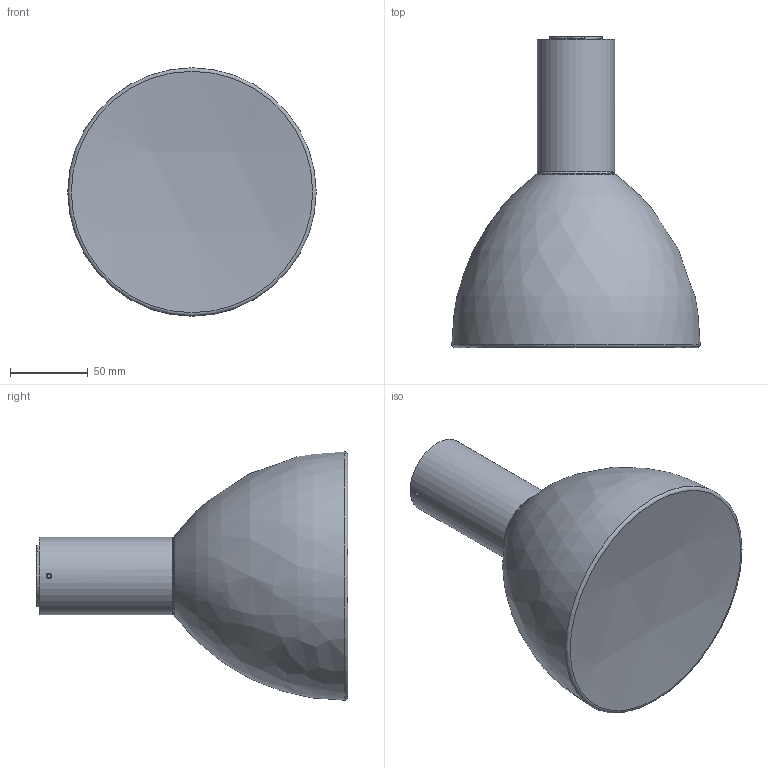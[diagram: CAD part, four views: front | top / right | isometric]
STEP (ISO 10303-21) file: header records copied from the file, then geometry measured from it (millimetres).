
FILE_DESCRIPTION(/* description */ (''),/* implementation_level */ '2;1');
FILE_NAME(/* name */ 'S:\UFFICIO TECNICO 2019\PRODOTTI ROTALIANA\SOUVLAKI\CONFIGURATORE\FILES X CONFIGURATORE\ipt INVENTOR\1SVH1001.stp',/* time_stamp */ '2024-03-13T17:51:39+01:00',/* author */ ('mtesta'),/* organization */ (''),/* preprocessor_version */ 'ST-DEVELOPER v18.1',/* originating_system */ 'Autodesk Inventor 2021',/* authorisation */ '');
FILE_SCHEMA (('AUTOMOTIVE_DESIGN { 1 0 10303 214 3 1 1 }'));
Length unit declared in the file: millimetre
Products named in the file (1): 1SVH1001
Bounding box: 160 x 200.65 x 160 mm (x, y, z)
Volume: 164336 mm3; surface area: 183249.7 mm2
Topology: 4 solids, 4 shells, 433 faces, 1021 edges, 629 vertices
Faces by surface type: torus 107, plane 96, cylinder 95, bspline 73, cone 58, sphere 4
Full cylindrical faces by diameter (mm): 1.567 x3, 2.459 x2, 3 x27, 3.2 x2, 3.242 x1, 3.25 x2, 4 x4, 6.5 x2, 39 x1, 42 x2, 46.5 x1, 48 x1, 48.2 x2, 50 x1
Entity records: 15395 total; most frequent: CARTESIAN_POINT 4981, DIRECTION 2147, ORIENTED_EDGE 2020, EDGE_CURVE 1010, AXIS2_PLACEMENT_3D 953, VERTEX_POINT 630, CIRCLE 592, EDGE_LOOP 510
